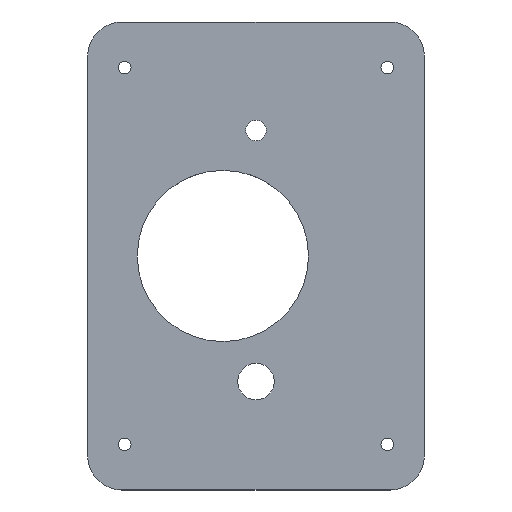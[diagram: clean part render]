
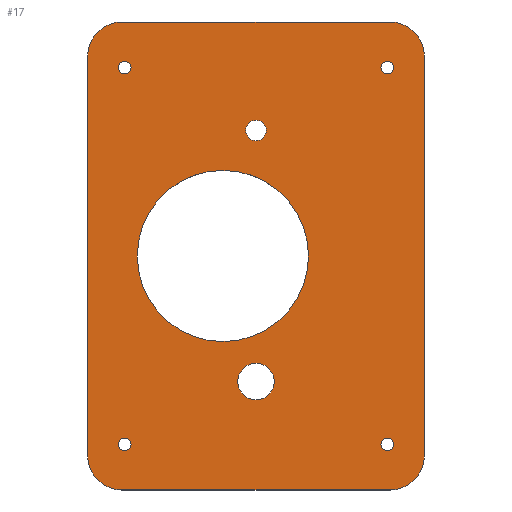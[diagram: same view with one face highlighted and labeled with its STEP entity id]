
A CAD part, top view. The second image highlights one B-rep face of the part: STEP entity #17.
In plain terms, the highlighted planar face has unit normal (0, 0, 1).
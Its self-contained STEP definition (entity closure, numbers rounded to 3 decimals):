
#17 = ADVANCED_FACE('',(#18,#88,#99,#110,#121,#132,#143,#154),#165,.T.);
#18 = FACE_BOUND('',#19,.T.);
#19 = EDGE_LOOP('',(#20,#31,#39,#48,#56,#65,#73,#82));
#20 = ORIENTED_EDGE('',*,*,#21,.T.);
#21 = EDGE_CURVE('',#22,#24,#26,.T.);
#22 = VERTEX_POINT('',#23);
#23 = CARTESIAN_POINT('',(-29.5,-35.,10.6));
#24 = VERTEX_POINT('',#25);
#25 = CARTESIAN_POINT('',(-23.5,-41.,10.6));
#26 = CIRCLE('',#27,6.);
#27 = AXIS2_PLACEMENT_3D('',#28,#29,#30);
#28 = CARTESIAN_POINT('',(-23.5,-35.,10.6));
#29 = DIRECTION('',(0.,0.,1.));
#30 = DIRECTION('',(1.,0.,0.));
#31 = ORIENTED_EDGE('',*,*,#32,.T.);
#32 = EDGE_CURVE('',#24,#33,#35,.T.);
#33 = VERTEX_POINT('',#34);
#34 = CARTESIAN_POINT('',(23.5,-41.,10.6));
#35 = LINE('',#36,#37);
#36 = CARTESIAN_POINT('',(-23.5,-41.,10.6));
#37 = VECTOR('',#38,1.);
#38 = DIRECTION('',(1.,0.,0.));
#39 = ORIENTED_EDGE('',*,*,#40,.T.);
#40 = EDGE_CURVE('',#33,#41,#43,.T.);
#41 = VERTEX_POINT('',#42);
#42 = CARTESIAN_POINT('',(29.5,-35.,10.6));
#43 = CIRCLE('',#44,6.);
#44 = AXIS2_PLACEMENT_3D('',#45,#46,#47);
#45 = CARTESIAN_POINT('',(23.5,-35.,10.6));
#46 = DIRECTION('',(0.,0.,1.));
#47 = DIRECTION('',(1.,0.,0.));
#48 = ORIENTED_EDGE('',*,*,#49,.T.);
#49 = EDGE_CURVE('',#41,#50,#52,.T.);
#50 = VERTEX_POINT('',#51);
#51 = CARTESIAN_POINT('',(29.5,35.,10.6));
#52 = LINE('',#53,#54);
#53 = CARTESIAN_POINT('',(29.5,-35.,10.6));
#54 = VECTOR('',#55,1.);
#55 = DIRECTION('',(0.,1.,0.));
#56 = ORIENTED_EDGE('',*,*,#57,.T.);
#57 = EDGE_CURVE('',#50,#58,#60,.T.);
#58 = VERTEX_POINT('',#59);
#59 = CARTESIAN_POINT('',(23.5,41.,10.6));
#60 = CIRCLE('',#61,6.);
#61 = AXIS2_PLACEMENT_3D('',#62,#63,#64);
#62 = CARTESIAN_POINT('',(23.5,35.,10.6));
#63 = DIRECTION('',(0.,0.,1.));
#64 = DIRECTION('',(1.,0.,0.));
#65 = ORIENTED_EDGE('',*,*,#66,.F.);
#66 = EDGE_CURVE('',#67,#58,#69,.T.);
#67 = VERTEX_POINT('',#68);
#68 = CARTESIAN_POINT('',(-23.5,41.,10.6));
#69 = LINE('',#70,#71);
#70 = CARTESIAN_POINT('',(-23.5,41.,10.6));
#71 = VECTOR('',#72,1.);
#72 = DIRECTION('',(1.,0.,0.));
#73 = ORIENTED_EDGE('',*,*,#74,.T.);
#74 = EDGE_CURVE('',#67,#75,#77,.T.);
#75 = VERTEX_POINT('',#76);
#76 = CARTESIAN_POINT('',(-29.5,35.,10.6));
#77 = CIRCLE('',#78,6.);
#78 = AXIS2_PLACEMENT_3D('',#79,#80,#81);
#79 = CARTESIAN_POINT('',(-23.5,35.,10.6));
#80 = DIRECTION('',(0.,0.,1.));
#81 = DIRECTION('',(1.,0.,0.));
#82 = ORIENTED_EDGE('',*,*,#83,.F.);
#83 = EDGE_CURVE('',#22,#75,#84,.T.);
#84 = LINE('',#85,#86);
#85 = CARTESIAN_POINT('',(-29.5,-35.,10.6));
#86 = VECTOR('',#87,1.);
#87 = DIRECTION('',(0.,1.,0.));
#88 = FACE_BOUND('',#89,.T.);
#89 = EDGE_LOOP('',(#90));
#90 = ORIENTED_EDGE('',*,*,#91,.T.);
#91 = EDGE_CURVE('',#92,#92,#94,.T.);
#92 = VERTEX_POINT('',#93);
#93 = CARTESIAN_POINT('',(-21.9,-33.,10.6));
#94 = CIRCLE('',#95,1.1);
#95 = AXIS2_PLACEMENT_3D('',#96,#97,#98);
#96 = CARTESIAN_POINT('',(-23.,-33.,10.6));
#97 = DIRECTION('',(0.,0.,-1.));
#98 = DIRECTION('',(1.,0.,0.));
#99 = FACE_BOUND('',#100,.T.);
#100 = EDGE_LOOP('',(#101));
#101 = ORIENTED_EDGE('',*,*,#102,.T.);
#102 = EDGE_CURVE('',#103,#103,#105,.T.);
#103 = VERTEX_POINT('',#104);
#104 = CARTESIAN_POINT('',(3.2,-22.,10.6));
#105 = CIRCLE('',#106,3.2);
#106 = AXIS2_PLACEMENT_3D('',#107,#108,#109);
#107 = CARTESIAN_POINT('',(0.,-22.,10.6));
#108 = DIRECTION('',(0.,0.,-1.));
#109 = DIRECTION('',(1.,0.,0.));
#110 = FACE_BOUND('',#111,.T.);
#111 = EDGE_LOOP('',(#112));
#112 = ORIENTED_EDGE('',*,*,#113,.T.);
#113 = EDGE_CURVE('',#114,#114,#116,.T.);
#114 = VERTEX_POINT('',#115);
#115 = CARTESIAN_POINT('',(24.1,-33.,10.6));
#116 = CIRCLE('',#117,1.1);
#117 = AXIS2_PLACEMENT_3D('',#118,#119,#120);
#118 = CARTESIAN_POINT('',(23.,-33.,10.6));
#119 = DIRECTION('',(0.,0.,-1.));
#120 = DIRECTION('',(1.,0.,0.));
#121 = FACE_BOUND('',#122,.T.);
#122 = EDGE_LOOP('',(#123));
#123 = ORIENTED_EDGE('',*,*,#124,.T.);
#124 = EDGE_CURVE('',#125,#125,#127,.T.);
#125 = VERTEX_POINT('',#126);
#126 = CARTESIAN_POINT('',(9.2,0.,10.6));
#127 = CIRCLE('',#128,15.);
#128 = AXIS2_PLACEMENT_3D('',#129,#130,#131);
#129 = CARTESIAN_POINT('',(-5.8,0.,10.6));
#130 = DIRECTION('',(0.,0.,-1.));
#131 = DIRECTION('',(1.,0.,0.));
#132 = FACE_BOUND('',#133,.T.);
#133 = EDGE_LOOP('',(#134));
#134 = ORIENTED_EDGE('',*,*,#135,.T.);
#135 = EDGE_CURVE('',#136,#136,#138,.T.);
#136 = VERTEX_POINT('',#137);
#137 = CARTESIAN_POINT('',(-21.9,33.,10.6));
#138 = CIRCLE('',#139,1.1);
#139 = AXIS2_PLACEMENT_3D('',#140,#141,#142);
#140 = CARTESIAN_POINT('',(-23.,33.,10.6));
#141 = DIRECTION('',(0.,0.,-1.));
#142 = DIRECTION('',(1.,0.,0.));
#143 = FACE_BOUND('',#144,.T.);
#144 = EDGE_LOOP('',(#145));
#145 = ORIENTED_EDGE('',*,*,#146,.T.);
#146 = EDGE_CURVE('',#147,#147,#149,.T.);
#147 = VERTEX_POINT('',#148);
#148 = CARTESIAN_POINT('',(1.8,22.,10.6));
#149 = CIRCLE('',#150,1.8);
#150 = AXIS2_PLACEMENT_3D('',#151,#152,#153);
#151 = CARTESIAN_POINT('',(0.,22.,10.6));
#152 = DIRECTION('',(0.,0.,-1.));
#153 = DIRECTION('',(1.,0.,0.));
#154 = FACE_BOUND('',#155,.T.);
#155 = EDGE_LOOP('',(#156));
#156 = ORIENTED_EDGE('',*,*,#157,.T.);
#157 = EDGE_CURVE('',#158,#158,#160,.T.);
#158 = VERTEX_POINT('',#159);
#159 = CARTESIAN_POINT('',(24.1,33.,10.6));
#160 = CIRCLE('',#161,1.1);
#161 = AXIS2_PLACEMENT_3D('',#162,#163,#164);
#162 = CARTESIAN_POINT('',(23.,33.,10.6));
#163 = DIRECTION('',(0.,0.,-1.));
#164 = DIRECTION('',(1.,0.,0.));
#165 = PLANE('',#166);
#166 = AXIS2_PLACEMENT_3D('',#167,#168,#169);
#167 = CARTESIAN_POINT('',(0.,0.,10.6));
#168 = DIRECTION('',(0.,0.,1.));
#169 = DIRECTION('',(1.,0.,0.));
